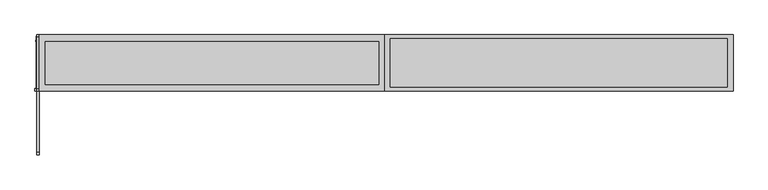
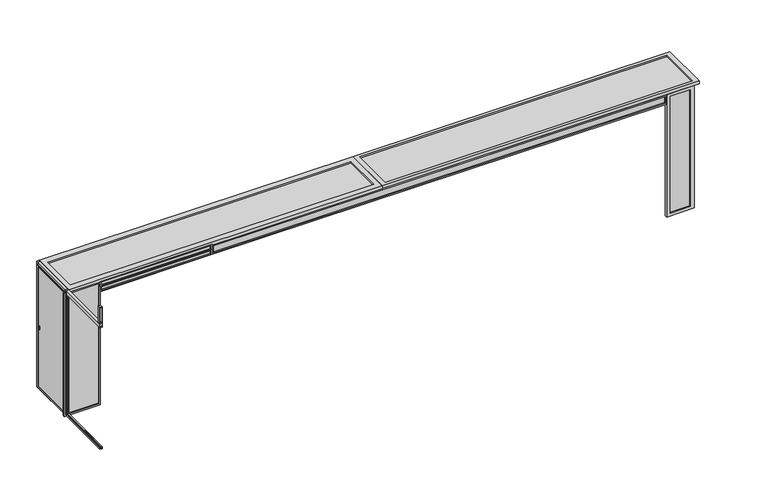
"""IFC4 building model written with IfcOpenShell, lengths in millimetres: beam geometry, Inside Partition Config-6 : Inside Partition Config-6."""

from ifc_helpers import new_model, si_unit, frame, origin, place, context, project, spatial, polyline, outline, extrude, source, transform, mapped, element, save


def beam_cf861e54(model_context):
    return source(origin(), model_context, "Body", "SweptSolid", [
        extrude(outline(polyline([(807.0, -406.5), (-1007.0, -406.5), (-1007.0, -387.5), (807.0, -387.5), (807.0, -406.5)])), frame((0.0, 0.0, 2515.0), z_axis=(0.0, 0.0, 1.0), x_axis=(1.0, 0.0, 0.0)), (0.0, 0.0, 1.0), 64.0),
        extrude(outline(polyline([(2591.0, 832.0), (2591.0, -1032.0), (2503.0, -1032.0), (2503.0, 832.0), (2591.0, 832.0)]), holes=[polyline([(2579.0, 807.0), (2515.0, 807.0), (2515.0, -1007.0), (2579.0, -1007.0), (2579.0, 807.0)])]), frame((0.0, -425.5, 0.0), z_axis=(0.0, 1.0, 0.0), x_axis=(0.0, 0.0, 1.0)), (0.0, 0.0, 1.0), 38.0),
        extrude(outline(polyline([(-1057.0, -406.5), (-1607.0, -406.5), (-1607.0, -387.5), (-1057.0, -387.5), (-1057.0, -406.5)])), frame((0.0, 0.0, 449.0), z_axis=(0.0, 0.0, 1.0), x_axis=(1.0, 0.0, 0.0)), (0.0, 0.0, 1.0), 2108.0),
        extrude(outline(polyline([(2582.0, -1032.0), (2582.0, -1632.0), (424.0, -1632.0), (424.0, -1032.0), (2582.0, -1032.0)]), holes=[polyline([(2557.0, -1057.0), (449.0, -1057.0), (449.0, -1607.0), (2557.0, -1607.0), (2557.0, -1057.0)])]), frame((0.0, -425.5, 0.0), z_axis=(0.0, 1.0, 0.0), x_axis=(0.0, 0.0, 1.0)), (0.0, 0.0, 1.0), 38.0),
        extrude(outline(polyline([(807.0, -406.5), (-1007.0, -406.5), (-1007.0, -387.5), (807.0, -387.5), (807.0, -406.5)])), frame((0.0, 0.0, 2431.52006), z_axis=(0.0, 0.0, 1.0), x_axis=(1.0, 0.0, 0.0)), (0.0, 0.0, 1.0), 54.9598799),
        extrude(outline(polyline([(2503.0, 832.0), (2503.0, -1032.0), (2415.0, -1032.0), (2415.0, 832.0), (2503.0, 832.0)]), holes=[polyline([(2486.47994, 807.0), (2431.52006, 807.0), (2431.52006, -1007.0), (2486.47994, -1007.0), (2486.47994, 807.0)])]), frame((0.0, -425.5, 0.0), z_axis=(0.0, 1.0, 0.0), x_axis=(0.0, 0.0, 1.0)), (0.0, 0.0, 1.0), 38.0),
        extrude(outline(polyline([(1540.2462614, -1613.5499185), (1544.0, -1605.5), (1546.2067558, -1605.5), (1541.5204019, -1615.5499185), (1491.4795981, -1615.5499185), (1486.7932442, -1605.5), (1489.0, -1605.5), (1492.7537386, -1613.5499185), (1540.2462614, -1613.5499185)])), frame((0.0, 324.5, 0.0), z_axis=(0.0, 1.0, 0.0), x_axis=(0.0, 0.0, 1.0)), (0.0, 0.0, 1.0), 20.0),
        extrude(outline(polyline([(-1605.5, -358.0), (-1605.5, 367.0), (-1596.5, 367.0), (-1596.5, -358.0), (-1605.5, -358.0)])), frame((0.0, 0.0, 468.0), z_axis=(0.0, 0.0, 1.0), x_axis=(1.0, 0.0, 0.0)), (0.0, 0.0, 1.0), 2097.0),
        extrude(outline(polyline([(-398.0, 2592.0), (407.0, 2592.0), (407.0, 441.0), (-398.0, 441.0), (-398.0, 2592.0)]), holes=[polyline([(-358.0, 2565.0), (-358.0, 468.0), (367.0, 468.0), (367.0, 2565.0), (-358.0, 2565.0)])]), frame((-1610.0, 0.0, 0.0), z_axis=(1.0, 0.0, 0.0), x_axis=(0.0, 1.0, 0.0)), (0.0, 0.0, 1.0), 18.0),
        extrude(outline(polyline([(3575.0, 325.5), (3575.0, -325.5), (-1477.0, -325.5), (-1477.0, 325.5), (3575.0, 325.5)])), frame((0.0, 0.0, 2582.0), z_axis=(0.0, 0.0, 1.0), x_axis=(1.0, 0.0, 0.0)), (0.0, 0.0, 1.0), 25.0),
        extrude(outline(polyline([(3662.0, 425.5), (3662.0, -425.5), (-1564.0, -425.5), (-1564.0, 425.5), (3662.0, 425.5)]), holes=[polyline([(3575.0, 325.5), (-1477.0, 325.5), (-1477.0, -325.5), (3575.0, -325.5), (3575.0, 325.5)])]), frame((0.0, 0.0, 2582.0), z_axis=(0.0, 0.0, 1.0), x_axis=(1.0, 0.0, 0.0)), (0.0, 0.0, 1.0), 50.0),
        extrude(outline(polyline([(8372.0, -406.5), (857.0, -406.5), (857.0, -387.5), (8372.0, -387.5), (8372.0, -406.5)])), frame((0.0, 0.0, 2440.0), z_axis=(0.0, 0.0, 1.0), x_axis=(1.0, 0.0, 0.0)), (0.0, 0.0, 1.0), 117.0),
        extrude(outline(polyline([(2582.0, 8397.0), (2582.0, 832.0), (2415.0, 832.0), (2415.0, 8397.0), (2582.0, 8397.0)]), holes=[polyline([(2557.0, 8372.0), (2440.0, 8372.0), (2440.0, 857.0), (2557.0, 857.0), (2557.0, 8372.0)])]), frame((0.0, -425.5, 0.0), z_axis=(0.0, 1.0, 0.0), x_axis=(0.0, 0.0, 1.0)), (0.0, 0.0, 1.0), 38.0),
        extrude(outline(polyline([(8858.0, 367.5), (8858.0, -367.5), (3749.0, -367.5), (3749.0, 367.5), (8858.0, 367.5)])), frame((0.0, 0.0, 2582.0), z_axis=(0.0, 0.0, 1.0), x_axis=(1.0, 0.0, 0.0)), (0.0, 0.0, 1.0), 25.0),
        extrude(outline(polyline([(8945.0, 425.5), (8945.0, -425.5), (3662.0, -425.5), (3662.0, 425.5), (8945.0, 425.5)]), holes=[polyline([(8858.0, 367.5), (3749.0, 367.5), (3749.0, -367.5), (8858.0, -367.5), (8858.0, 367.5)])]), frame((0.0, 0.0, 2582.0), z_axis=(0.0, 0.0, 1.0), x_axis=(1.0, 0.0, 0.0)), (0.0, 0.0, 1.0), 50.0),
        extrude(outline(polyline([(8795.0, -406.5), (8460.0, -406.5), (8460.0, -387.5), (8795.0, -387.5), (8795.0, -406.5)])), frame((0.0, 0.0, 474.0), z_axis=(0.0, 0.0, 1.0), x_axis=(1.0, 0.0, 0.0)), (0.0, 0.0, 1.0), 2058.0),
        extrude(outline(polyline([(2582.0, 8858.0), (2582.0, 8397.0), (424.0, 8397.0), (424.0, 8858.0), (2582.0, 8858.0)]), holes=[polyline([(2532.0, 8795.0), (474.0, 8795.0), (474.0, 8460.0), (2532.0, 8460.0), (2532.0, 8795.0)])]), frame((0.0, -425.5, 0.0), z_axis=(0.0, 1.0, 0.0), x_axis=(0.0, 0.0, 1.0)), (0.0, 0.0, 1.0), 38.0),
        extrude(outline(polyline([(2632.0, -1564.0), (2632.0, -1602.0), (424.0, -1602.0), (424.0, -1564.0), (2632.0, -1564.0)]), holes=[polyline([(2597.0, -1574.0), (439.0, -1574.0), (439.0, -1592.0), (2597.0, -1592.0), (2597.0, -1574.0)])]), frame((0.0, 397.0, 0.0), z_axis=(0.0, 1.0, 0.0), x_axis=(0.0, 0.0, 1.0)), (0.0, 0.0, 1.0), 29.0),
        extrude(outline(polyline([(2632.0, -1564.0), (2632.0, -1602.0), (424.0, -1602.0), (424.0, -1564.0), (2632.0, -1564.0)]), holes=[polyline([(2602.0, -1574.0), (439.0, -1574.0), (439.0, -1592.0), (2602.0, -1592.0), (2602.0, -1574.0)])]), frame((0.0, -426.0, 0.0), z_axis=(0.0, 1.0, 0.0), x_axis=(0.0, 0.0, 1.0)), (0.0, 0.0, 1.0), 29.0),
        extrude(outline(polyline([(2925.0, -1564.0), (2925.0, -1602.0), (2632.0, -1602.0), (2632.0, -1564.0), (2925.0, -1564.0)]), holes=[polyline([(2907.8411847, -1593.0), (2907.8411847, -1573.0), (2648.6054969, -1573.0), (2648.6054969, -1593.0), (2907.8411847, -1593.0)])]), frame((0.0, -1397.5, 0.0), z_axis=(0.0, 1.0, 0.0), x_axis=(0.0, 0.0, 1.0)), (0.0, 0.0, 1.0), 41.1349177),
        extrude(outline(polyline([(454.0, -1602.0), (424.0, -1602.0), (424.0, -1564.0), (454.0, -1564.0), (454.0, -1573.0), (440.875, -1573.0), (440.875, -1593.0), (454.0, -1593.0), (454.0, -1602.0)])), frame((0.0, -1397.5, 0.0), z_axis=(0.0, 1.0, 0.0), x_axis=(0.0, 0.0, 1.0)), (0.0, 0.0, 1.0), 972.0),
        extrude(outline(polyline([(2565.0, -1602.0), (2565.0, -1593.0), (2593.0, -1593.0), (2593.0, -1573.0), (2565.0, -1573.0), (2565.0, -1564.0), (2632.0, -1564.0), (2632.0, -1602.0), (2565.0, -1602.0)])), frame((0.0, -1397.5, 0.0), z_axis=(0.0, 1.0, 0.0), x_axis=(0.0, 0.0, 1.0)), (0.0, 0.0, 1.0), 972.0),
        extrude(outline(polyline([(454.0, -1602.0), (424.0, -1602.0), (424.0, -1564.0), (454.0, -1564.0), (454.0, -1573.0), (440.875, -1573.0), (440.875, -1593.0), (454.0, -1593.0), (454.0, -1602.0)])), frame((0.0, -397.0, 0.0), z_axis=(0.0, 1.0, 0.0), x_axis=(0.0, 0.0, 1.0)), (0.0, 0.0, 1.0), 794.0),
        extrude(outline(polyline([(2565.0, -1602.0), (2565.0, -1593.0), (2593.0, -1593.0), (2593.0, -1573.0), (2565.0, -1573.0), (2565.0, -1564.0), (2632.0, -1564.0), (2632.0, -1602.0), (2565.0, -1602.0)])), frame((0.0, -397.0, 0.0), z_axis=(0.0, 1.0, 0.0), x_axis=(0.0, 0.0, 1.0)), (0.0, 0.0, 1.0), 794.0),
    ])


if __name__ == "__main__":
    model = new_model("IFC4")
    model_context = context("Model", 3, world=origin())
    ifc_project = project(units=[si_unit("LENGTHUNIT", "METRE", prefix="MILLI")], contexts=[model_context])
    site = spatial("IfcSite", under=ifc_project)
    building = spatial("IfcBuilding", under=site)
    placement = place(None, origin())
    beam_shape = beam_cf861e54(model_context)
    element("IfcBeam", 1, ObjectType="Inside Partition Config-6 : Inside Partition Config-6", at=placement, inside=building, context=model_context, shape_type="MappedRepresentation", body=[
        mapped(beam_shape, transform((0.0, 0.0, 0.0), x_axis=(1.0, 0.0, 0.0), y_axis=(0.0, 1.0, 0.0), z_axis=(0.0, 0.0, 1.0))),
    ])
    save(model, "model.ifc")
